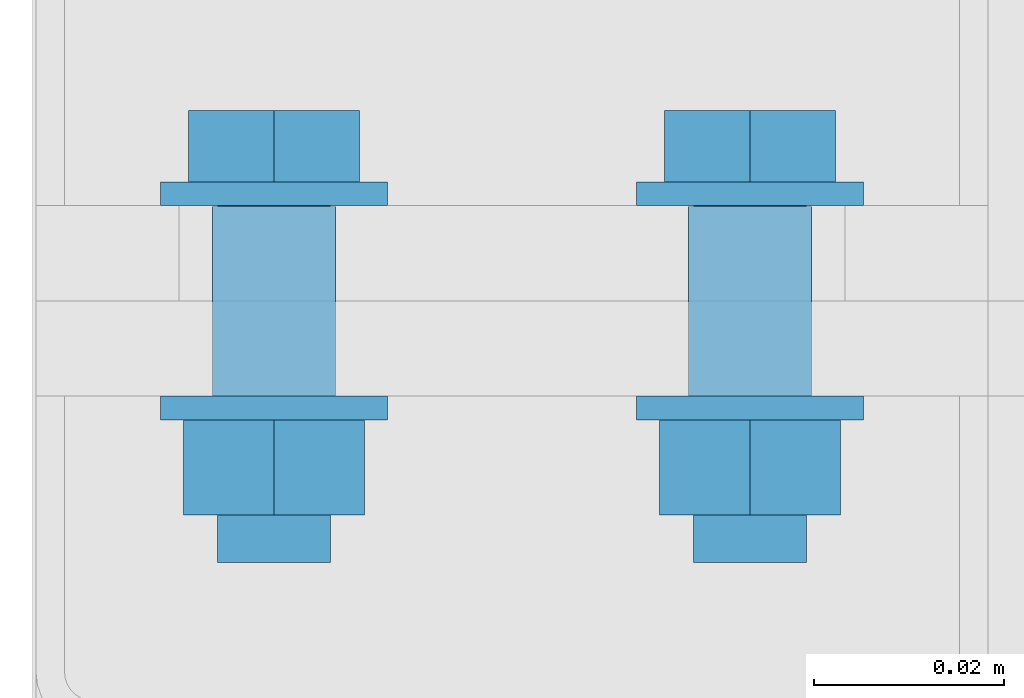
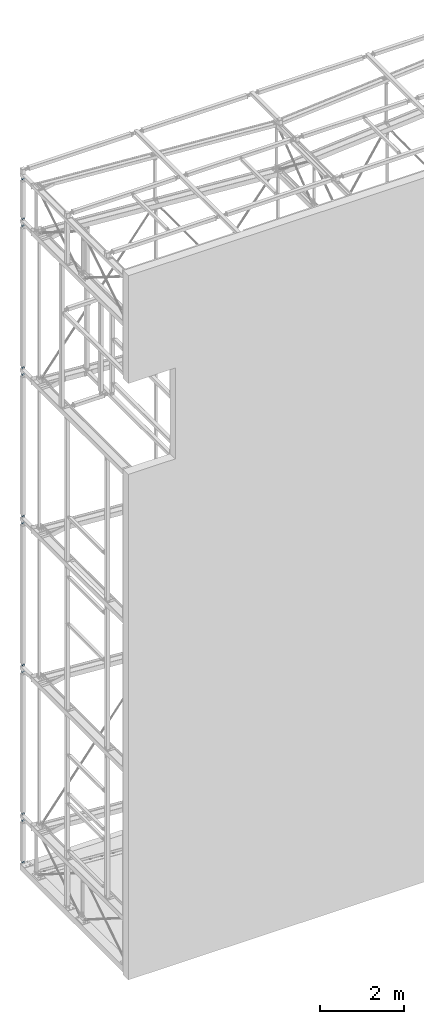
# One storey, part 252 of 271: 12 mechanical fasteners, 6 elements without a shape of their own.
"""IFC2X3 building model written with IfcOpenShell, lengths in millimetres."""

from ifc_helpers import new_model, si_unit, frame, frame_2d, origin_with_axes, origin_2d_with_axis, place, context, subcontext, project, spatial, polyline, circle_curve, parameter, trimmed, segment, composite_curve, circle, outline, extrude, source, transform, mapped, material, type_object, element, aggregate, save


model = new_model("IFC2X3")

# Units and contexts
model_context = context("Model", 3, precision=1e-05, world=origin_with_axes())
body_context = subcontext(model_context, "Body", "Model", "MODEL_VIEW")
ifc_project = project(units=[si_unit("LENGTHUNIT", "METRE", prefix="MILLI"), si_unit("AREAUNIT", "SQUARE_METRE"), si_unit("VOLUMEUNIT", "CUBIC_METRE"), si_unit("MASSUNIT", "GRAM", prefix="KILO"), si_unit("TIMEUNIT", "SECOND"), si_unit("PLANEANGLEUNIT", "RADIAN"), si_unit("SOLIDANGLEUNIT", "STERADIAN"), si_unit("THERMODYNAMICTEMPERATUREUNIT", "DEGREE_CELSIUS"), si_unit("LUMINOUSINTENSITYUNIT", "LUMEN")], contexts=[model_context])

# Site, building, storey
site_placement = place(None, origin_with_axes())
site = spatial("IfcSite", under=ifc_project, at=site_placement, Name="Undefined", CompositionType="ELEMENT")
building_placement = place(site_placement, origin_with_axes())
building = spatial("IfcBuilding", under=site, at=building_placement, Name="Undefined", CompositionType="ELEMENT")
storey_placement = place(building_placement, origin_with_axes())
storey = spatial("IfcBuildingStorey", under=building, at=storey_placement, Name="Undefined", CompositionType="ELEMENT", Elevation=0.0)

# Assembly, mechanical fastener
assembly_1_placement = place(storey_placement, origin_with_axes())
assembly_1 = element("IfcElementAssembly", 1, at=assembly_1_placement, inside=storey, AssemblyPlace="NOTDEFINED", PredefinedType="RIGID_FRAME")
ifc_material = material(Name="Undefined")
mechanical_fastener_type = type_object("IfcMechanicalFastenerType", Name="Bolt assembly")
shared_shape_1 = source(origin_with_axes(), body_context, "Body", "SweptSolid", [
    extrude(circle(Radius=6.5, at=origin_2d_with_axis()), frame((0.0, -5.1, 0.0), z_axis=(0.0, 1.0, 0.0), x_axis=(1.0, 0.0, 0.0)), (0.0, 0.0, 1.0), 10.1),
    extrude(circle(Radius=6.5, at=origin_2d_with_axis()), frame((0.0, -14.9000000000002, 0.0), z_axis=(0.0, 1.0, 0.0), x_axis=(1.0, 0.0, 0.0)), (0.0, 0.0, 1.0), 10.0),
    extrude(outline(polyline([(10.39230484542, 0.0), (5.19615242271, 9.00000000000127), (-5.19615242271, 9.00000000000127), (-10.39230484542, 0.0), (-5.19615242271, -9.00000000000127), (5.19615242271, -9.00000000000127), (10.39230484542, 0.0)])), frame((0.0, -25.0000000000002, 0.0), z_axis=(0.0, 1.0, 0.0), x_axis=(1.0, 0.0, 0.0)), (0.0, 0.0, 1.0), 7.5),
    extrude(circle(Radius=6.0, at=origin_2d_with_axis()), frame((0.0, -17.5000000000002, 0.0), z_axis=(0.0, 1.0, 0.0), x_axis=(1.0, 0.0, 0.0)), (0.0, 0.0, 1.0), 40.0),
    extrude(circle(Radius=12.0, at=origin_2d_with_axis()), frame((0.0, -17.5000000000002, 0.0), z_axis=(0.0, 1.0, 0.0), x_axis=(1.0, 0.0, 0.0)), (0.0, 0.0, 1.0), 2.5),
    extrude(circle(Radius=12.0, at=origin_2d_with_axis()), frame((0.0, 5.00000000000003, 0.0), z_axis=(0.0, 1.0, 0.0), x_axis=(1.0, 0.0, 0.0)), (0.0, 0.0, 1.0), 2.5),
    extrude(outline(polyline([(10.96965511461, 0.0), (5.484827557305, 9.50000000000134), (-5.484827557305, 9.50000000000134), (-10.96965511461, 0.0), (-5.484827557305, -9.50000000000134), (5.484827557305, -9.50000000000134), (10.96965511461, 0.0)])), frame((0.0, 7.50000000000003, 0.0), z_axis=(0.0, 1.0, 0.0), x_axis=(1.0, 0.0, 0.0)), (0.0, 0.0, 1.0), 10.0),
])
mechanical_fastener_1_placement = place(assembly_1_placement, frame((38.3756870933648, 4899.32498425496, 45.3499999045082), z_axis=(1.0, 0.0, 0.0), x_axis=(0.0, 0.0, 1.0)))
mechanical_fastener_1 = element("IfcMechanicalFastener", 2, at=mechanical_fastener_1_placement, type_object=mechanical_fastener_type, material=ifc_material, Name="Bolt assembly", NominalDiameter=12.0, NominalLength=40.0, context=body_context, shape_type="MappedRepresentation", body=[
    mapped(shared_shape_1, transform((0.0, 0.0, -25.0))),
    mapped(shared_shape_1, transform((0.0, 0.0, 25.0))),
])

assembly_2_placement = place(storey_placement, origin_with_axes())
assembly_2 = element("IfcElementAssembly", 3, at=assembly_2_placement, inside=storey, AssemblyPlace="NOTDEFINED", PredefinedType="RIGID_FRAME")
mechanical_fastener_2_placement = place(assembly_2_placement, frame((38.3756870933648, 4899.32498425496, 1459.34999990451), z_axis=(1.0, 0.0, 0.0), x_axis=(0.0, 0.0, 1.0)))
mechanical_fastener_2 = element("IfcMechanicalFastener", 4, at=mechanical_fastener_2_placement, type_object=mechanical_fastener_type, material=ifc_material, Name="Bolt assembly", NominalDiameter=12.0, NominalLength=40.0, context=body_context, shape_type="MappedRepresentation", body=[
    mapped(shared_shape_1, transform((0.0, 0.0, -25.0))),
    mapped(shared_shape_1, transform((0.0, 0.0, 25.0))),
])

assembly_3_placement = place(storey_placement, origin_with_axes())
assembly_3 = element("IfcElementAssembly", 5, at=assembly_3_placement, inside=storey, AssemblyPlace="NOTDEFINED", PredefinedType="RIGID_FRAME")
mechanical_fastener_3_placement = place(assembly_3_placement, frame((38.3756870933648, 4899.32498425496, 5779.34999990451), z_axis=(1.0, 0.0, 0.0), x_axis=(0.0, 0.0, 1.0)))
mechanical_fastener_3 = element("IfcMechanicalFastener", 6, at=mechanical_fastener_3_placement, type_object=mechanical_fastener_type, material=ifc_material, Name="Bolt assembly", NominalDiameter=12.0, NominalLength=40.0, context=body_context, shape_type="MappedRepresentation", body=[
    mapped(shared_shape_1, transform((0.0, 0.0, -25.0))),
    mapped(shared_shape_1, transform((0.0, 0.0, 25.0))),
])

assembly_4_placement = place(storey_placement, origin_with_axes())
assembly_4 = element("IfcElementAssembly", 7, at=assembly_4_placement, inside=storey, AssemblyPlace="NOTDEFINED", PredefinedType="RIGID_FRAME")
mechanical_fastener_4_placement = place(assembly_4_placement, frame((38.3756870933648, 4899.32498425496, 10099.3499999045), z_axis=(1.0, 0.0, 0.0), x_axis=(0.0, 0.0, 1.0)))
mechanical_fastener_4 = element("IfcMechanicalFastener", 8, at=mechanical_fastener_4_placement, type_object=mechanical_fastener_type, material=ifc_material, Name="Bolt assembly", NominalDiameter=12.0, NominalLength=40.0, context=body_context, shape_type="MappedRepresentation", body=[
    mapped(shared_shape_1, transform((0.0, 0.0, -25.0))),
    mapped(shared_shape_1, transform((0.0, 0.0, 25.0))),
])

assembly_5_placement = place(storey_placement, origin_with_axes())
assembly_5 = element("IfcElementAssembly", 9, at=assembly_5_placement, inside=storey, AssemblyPlace="NOTDEFINED", PredefinedType="RIGID_FRAME")
mechanical_fastener_5_placement = place(assembly_5_placement, frame((38.3756870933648, 4899.32498425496, 14419.3499999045), z_axis=(1.0, 0.0, 0.0), x_axis=(0.0, 0.0, 1.0)))
mechanical_fastener_5 = element("IfcMechanicalFastener", 10, at=mechanical_fastener_5_placement, type_object=mechanical_fastener_type, material=ifc_material, Name="Bolt assembly", NominalDiameter=12.0, NominalLength=40.0, context=body_context, shape_type="MappedRepresentation", body=[
    mapped(shared_shape_1, transform((0.0, 0.0, -25.0))),
    mapped(shared_shape_1, transform((0.0, 0.0, 25.0))),
])

assembly_6_placement = place(storey_placement, origin_with_axes())
assembly_6 = element("IfcElementAssembly", 11, at=assembly_6_placement, inside=storey, AssemblyPlace="NOTDEFINED", PredefinedType="RIGID_FRAME")
mechanical_fastener_6_placement = place(assembly_6_placement, frame((38.3756870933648, 4899.32498425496, 18739.3499999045), z_axis=(1.0, 0.0, 0.0), x_axis=(0.0, 0.0, 1.0)))
mechanical_fastener_6 = element("IfcMechanicalFastener", 12, at=mechanical_fastener_6_placement, type_object=mechanical_fastener_type, material=ifc_material, Name="Bolt assembly", NominalDiameter=12.0, NominalLength=40.0, context=body_context, shape_type="MappedRepresentation", body=[
    mapped(shared_shape_1, transform((0.0, 0.0, -25.0))),
    mapped(shared_shape_1, transform((0.0, 0.0, 25.0))),
])

# Mechanical fastener
shared_shape_2 = source(origin_with_axes(), body_context, "Body", "SweptSolid", [
    extrude(circle(Radius=6.5, at=origin_2d_with_axis()), frame((0.0, -5.1, 0.0), z_axis=(0.0, 1.0, 0.0), x_axis=(1.0, 0.0, 0.0)), (0.0, 0.0, 1.0), 10.1),
    extrude(outline(composite_curve([segment(polyline([(-13.5, 6.5), (13.5, 6.5)]), True, "CONTINUOUS"), segment(trimmed(circle_curve(frame_2d((13.5, 0.0), x_axis=(0.0, 1.0)), 6.5), [parameter(0.0)], [parameter(3.14159265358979)], False, "PARAMETER"), True, "CONTINUOUS"), segment(polyline([(13.5, -6.5), (-13.5, -6.5)]), True, "CONTINUOUS"), segment(trimmed(circle_curve(frame_2d((-13.5, 0.0), x_axis=(0.0, -1.0)), 6.5), [parameter(0.0)], [parameter(3.14159265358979)], False, "PARAMETER"), True, "DISCONTINUOUS")], self_intersect=False)), frame((0.0, -14.9000000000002, 0.0), z_axis=(0.0, 1.0, 0.0), x_axis=(1.0, 0.0, 0.0)), (0.0, 0.0, 1.0), 10.0),
    extrude(outline(polyline([(10.39230484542, 0.0), (5.19615242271, 9.00000000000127), (-5.19615242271, 9.00000000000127), (-10.39230484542, 0.0), (-5.19615242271, -9.00000000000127), (5.19615242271, -9.00000000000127), (10.39230484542, 0.0)])), frame((0.0, -25.0000000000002, 0.0), z_axis=(0.0, 1.0, 0.0), x_axis=(1.0, 0.0, 0.0)), (0.0, 0.0, 1.0), 7.5),
    extrude(circle(Radius=6.0, at=origin_2d_with_axis()), frame((0.0, -17.5000000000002, 0.0), z_axis=(0.0, 1.0, 0.0), x_axis=(1.0, 0.0, 0.0)), (0.0, 0.0, 1.0), 40.0),
    extrude(circle(Radius=12.0, at=origin_2d_with_axis()), frame((0.0, -17.5000000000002, 0.0), z_axis=(0.0, 1.0, 0.0), x_axis=(1.0, 0.0, 0.0)), (0.0, 0.0, 1.0), 2.5),
    extrude(circle(Radius=12.0, at=origin_2d_with_axis()), frame((0.0, 5.00000000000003, 0.0), z_axis=(0.0, 1.0, 0.0), x_axis=(1.0, 0.0, 0.0)), (0.0, 0.0, 1.0), 2.5),
    extrude(outline(polyline([(10.96965511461, 0.0), (5.484827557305, 9.50000000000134), (-5.484827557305, 9.50000000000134), (-10.96965511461, 0.0), (-5.484827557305, -9.50000000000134), (5.484827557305, -9.50000000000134), (10.96965511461, 0.0)])), frame((0.0, 7.50000000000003, 0.0), z_axis=(0.0, 1.0, 0.0), x_axis=(1.0, 0.0, 0.0)), (0.0, 0.0, 1.0), 10.0),
])
mechanical_fastener_7_placement = place(assembly_1_placement, frame((38.3756870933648, 4899.32498425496, 1259.34999990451), z_axis=(-1.0, 0.0, 1.38777878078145e-17), x_axis=(0.0, 0.0, -1.0)))
mechanical_fastener_7 = element("IfcMechanicalFastener", 13, at=mechanical_fastener_7_placement, type_object=mechanical_fastener_type, material=ifc_material, Name="Bolt assembly", NominalDiameter=12.0, NominalLength=40.0, context=body_context, shape_type="MappedRepresentation", body=[
    mapped(shared_shape_2, transform((0.0, 0.0, -25.0))),
    mapped(shared_shape_2, transform((0.0, 0.0, 25.0))),
])

aggregate(assembly_1, [mechanical_fastener_1, mechanical_fastener_7])

shared_shape_3 = source(origin_with_axes(), body_context, "Body", "SweptSolid", [
    extrude(circle(Radius=6.5, at=origin_2d_with_axis()), frame((0.0, -5.1, 0.0), z_axis=(0.0, 1.0, 0.0), x_axis=(1.0, 0.0, 0.0)), (0.0, 0.0, 1.0), 10.1),
    extrude(outline(composite_curve([segment(polyline([(-13.5, 6.5), (13.5, 6.5)]), True, "CONTINUOUS"), segment(trimmed(circle_curve(frame_2d((13.5, 0.0), x_axis=(0.0, 1.0)), 6.5), [parameter(0.0)], [parameter(3.14159265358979)], False, "PARAMETER"), True, "CONTINUOUS"), segment(polyline([(13.5, -6.5), (-13.5, -6.5)]), True, "CONTINUOUS"), segment(trimmed(circle_curve(frame_2d((-13.5, 0.0), x_axis=(0.0, -1.0)), 6.5), [parameter(0.0)], [parameter(3.14159265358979)], False, "PARAMETER"), True, "DISCONTINUOUS")], self_intersect=False)), frame((0.0, -14.9000000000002, 0.0), z_axis=(0.0, 1.0, 0.0), x_axis=(1.0, 0.0, 0.0)), (0.0, 0.0, 1.0), 10.0),
    extrude(outline(polyline([(10.39230484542, 0.0), (5.19615242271, 9.00000000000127), (-5.19615242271, 9.00000000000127), (-10.39230484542, 0.0), (-5.19615242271, -9.00000000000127), (5.19615242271, -9.00000000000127), (10.39230484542, 0.0)])), frame((0.0, -25.0000000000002, 0.0), z_axis=(0.0, 1.0, 0.0), x_axis=(1.0, 0.0, 0.0)), (0.0, 0.0, 1.0), 7.5),
    extrude(circle(Radius=6.0, at=origin_2d_with_axis()), frame((0.0, -17.5000000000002, 0.0), z_axis=(0.0, 1.0, 0.0), x_axis=(1.0, 0.0, 0.0)), (0.0, 0.0, 1.0), 40.0),
    extrude(circle(Radius=12.0, at=origin_2d_with_axis()), frame((0.0, -17.5000000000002, 0.0), z_axis=(0.0, 1.0, 0.0), x_axis=(1.0, 0.0, 0.0)), (0.0, 0.0, 1.0), 2.5),
    extrude(circle(Radius=12.0, at=origin_2d_with_axis()), frame((0.0, 5.00000000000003, 0.0), z_axis=(0.0, 1.0, 0.0), x_axis=(1.0, 0.0, 0.0)), (0.0, 0.0, 1.0), 2.5),
    extrude(outline(polyline([(10.96965511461, 0.0), (5.484827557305, 9.50000000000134), (-5.484827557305, 9.50000000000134), (-10.96965511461, 0.0), (-5.484827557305, -9.50000000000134), (5.484827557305, -9.50000000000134), (10.96965511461, 0.0)])), frame((0.0, 7.50000000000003, 0.0), z_axis=(0.0, 1.0, 0.0), x_axis=(1.0, 0.0, 0.0)), (0.0, 0.0, 1.0), 10.0),
])
mechanical_fastener_8_placement = place(assembly_2_placement, frame((38.3756870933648, 4899.32498425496, 5579.34999990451), z_axis=(-1.0, 0.0, 1.38777878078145e-17), x_axis=(0.0, 0.0, -1.0)))
mechanical_fastener_8 = element("IfcMechanicalFastener", 14, at=mechanical_fastener_8_placement, type_object=mechanical_fastener_type, material=ifc_material, Name="Bolt assembly", NominalDiameter=12.0, NominalLength=40.0, context=body_context, shape_type="MappedRepresentation", body=[
    mapped(shared_shape_3, transform((0.0, 0.0, -25.0))),
    mapped(shared_shape_3, transform((0.0, 0.0, 25.0))),
])

aggregate(assembly_2, [mechanical_fastener_2, mechanical_fastener_8])

shared_shape_4 = source(origin_with_axes(), body_context, "Body", "SweptSolid", [
    extrude(circle(Radius=6.5, at=origin_2d_with_axis()), frame((0.0, -5.1, 0.0), z_axis=(0.0, 1.0, 0.0), x_axis=(1.0, 0.0, 0.0)), (0.0, 0.0, 1.0), 10.1),
    extrude(outline(composite_curve([segment(polyline([(-13.5, 6.5), (13.5, 6.5)]), True, "CONTINUOUS"), segment(trimmed(circle_curve(frame_2d((13.5, 0.0), x_axis=(0.0, 1.0)), 6.5), [parameter(0.0)], [parameter(3.14159265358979)], False, "PARAMETER"), True, "CONTINUOUS"), segment(polyline([(13.5, -6.5), (-13.5, -6.5)]), True, "CONTINUOUS"), segment(trimmed(circle_curve(frame_2d((-13.5, 0.0), x_axis=(0.0, -1.0)), 6.5), [parameter(0.0)], [parameter(3.14159265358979)], False, "PARAMETER"), True, "DISCONTINUOUS")], self_intersect=False)), frame((0.0, -14.9000000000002, 0.0), z_axis=(0.0, 1.0, 0.0), x_axis=(1.0, 0.0, 0.0)), (0.0, 0.0, 1.0), 10.0),
    extrude(outline(polyline([(10.39230484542, 0.0), (5.19615242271, 9.00000000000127), (-5.19615242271, 9.00000000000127), (-10.39230484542, 0.0), (-5.19615242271, -9.00000000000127), (5.19615242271, -9.00000000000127), (10.39230484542, 0.0)])), frame((0.0, -25.0000000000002, 0.0), z_axis=(0.0, 1.0, 0.0), x_axis=(1.0, 0.0, 0.0)), (0.0, 0.0, 1.0), 7.5),
    extrude(circle(Radius=6.0, at=origin_2d_with_axis()), frame((0.0, -17.5000000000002, 0.0), z_axis=(0.0, 1.0, 0.0), x_axis=(1.0, 0.0, 0.0)), (0.0, 0.0, 1.0), 40.0),
    extrude(circle(Radius=12.0, at=origin_2d_with_axis()), frame((0.0, -17.5000000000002, 0.0), z_axis=(0.0, 1.0, 0.0), x_axis=(1.0, 0.0, 0.0)), (0.0, 0.0, 1.0), 2.5),
    extrude(circle(Radius=12.0, at=origin_2d_with_axis()), frame((0.0, 5.00000000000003, 0.0), z_axis=(0.0, 1.0, 0.0), x_axis=(1.0, 0.0, 0.0)), (0.0, 0.0, 1.0), 2.5),
    extrude(outline(polyline([(10.96965511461, 0.0), (5.484827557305, 9.50000000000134), (-5.484827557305, 9.50000000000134), (-10.96965511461, 0.0), (-5.484827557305, -9.50000000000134), (5.484827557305, -9.50000000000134), (10.96965511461, 0.0)])), frame((0.0, 7.50000000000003, 0.0), z_axis=(0.0, 1.0, 0.0), x_axis=(1.0, 0.0, 0.0)), (0.0, 0.0, 1.0), 10.0),
])
mechanical_fastener_9_placement = place(assembly_3_placement, frame((38.3756870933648, 4899.32498425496, 9899.34999990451), z_axis=(-1.0, 0.0, 1.38777878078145e-17), x_axis=(0.0, 0.0, -1.0)))
mechanical_fastener_9 = element("IfcMechanicalFastener", 15, at=mechanical_fastener_9_placement, type_object=mechanical_fastener_type, material=ifc_material, Name="Bolt assembly", NominalDiameter=12.0, NominalLength=40.0, context=body_context, shape_type="MappedRepresentation", body=[
    mapped(shared_shape_4, transform((0.0, 0.0, -25.0))),
    mapped(shared_shape_4, transform((0.0, 0.0, 25.0))),
])

aggregate(assembly_3, [mechanical_fastener_3, mechanical_fastener_9])

shared_shape_5 = source(origin_with_axes(), body_context, "Body", "SweptSolid", [
    extrude(circle(Radius=6.5, at=origin_2d_with_axis()), frame((0.0, -5.1, 0.0), z_axis=(0.0, 1.0, 0.0), x_axis=(1.0, 0.0, 0.0)), (0.0, 0.0, 1.0), 10.1),
    extrude(outline(composite_curve([segment(polyline([(-13.5, 6.5), (13.5, 6.5)]), True, "CONTINUOUS"), segment(trimmed(circle_curve(frame_2d((13.5, 0.0), x_axis=(0.0, 1.0)), 6.5), [parameter(0.0)], [parameter(3.14159265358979)], False, "PARAMETER"), True, "CONTINUOUS"), segment(polyline([(13.5, -6.5), (-13.5, -6.5)]), True, "CONTINUOUS"), segment(trimmed(circle_curve(frame_2d((-13.5, 0.0), x_axis=(0.0, -1.0)), 6.5), [parameter(0.0)], [parameter(3.14159265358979)], False, "PARAMETER"), True, "DISCONTINUOUS")], self_intersect=False)), frame((0.0, -14.9000000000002, 0.0), z_axis=(0.0, 1.0, 0.0), x_axis=(1.0, 0.0, 0.0)), (0.0, 0.0, 1.0), 10.0),
    extrude(outline(polyline([(10.39230484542, 0.0), (5.19615242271, 9.00000000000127), (-5.19615242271, 9.00000000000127), (-10.39230484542, 0.0), (-5.19615242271, -9.00000000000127), (5.19615242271, -9.00000000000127), (10.39230484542, 0.0)])), frame((0.0, -25.0000000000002, 0.0), z_axis=(0.0, 1.0, 0.0), x_axis=(1.0, 0.0, 0.0)), (0.0, 0.0, 1.0), 7.5),
    extrude(circle(Radius=6.0, at=origin_2d_with_axis()), frame((0.0, -17.5000000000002, 0.0), z_axis=(0.0, 1.0, 0.0), x_axis=(1.0, 0.0, 0.0)), (0.0, 0.0, 1.0), 40.0),
    extrude(circle(Radius=12.0, at=origin_2d_with_axis()), frame((0.0, -17.5000000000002, 0.0), z_axis=(0.0, 1.0, 0.0), x_axis=(1.0, 0.0, 0.0)), (0.0, 0.0, 1.0), 2.5),
    extrude(circle(Radius=12.0, at=origin_2d_with_axis()), frame((0.0, 5.00000000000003, 0.0), z_axis=(0.0, 1.0, 0.0), x_axis=(1.0, 0.0, 0.0)), (0.0, 0.0, 1.0), 2.5),
    extrude(outline(polyline([(10.96965511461, 0.0), (5.484827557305, 9.50000000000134), (-5.484827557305, 9.50000000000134), (-10.96965511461, 0.0), (-5.484827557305, -9.50000000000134), (5.484827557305, -9.50000000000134), (10.96965511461, 0.0)])), frame((0.0, 7.50000000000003, 0.0), z_axis=(0.0, 1.0, 0.0), x_axis=(1.0, 0.0, 0.0)), (0.0, 0.0, 1.0), 10.0),
])
mechanical_fastener_10_placement = place(assembly_4_placement, frame((38.3756870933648, 4899.32498425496, 14219.3499999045), z_axis=(-1.0, 0.0, 1.38777878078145e-17), x_axis=(0.0, 0.0, -1.0)))
mechanical_fastener_10 = element("IfcMechanicalFastener", 16, at=mechanical_fastener_10_placement, type_object=mechanical_fastener_type, material=ifc_material, Name="Bolt assembly", NominalDiameter=12.0, NominalLength=40.0, context=body_context, shape_type="MappedRepresentation", body=[
    mapped(shared_shape_5, transform((0.0, 0.0, -25.0))),
    mapped(shared_shape_5, transform((0.0, 0.0, 25.0))),
])

aggregate(assembly_4, [mechanical_fastener_4, mechanical_fastener_10])

shared_shape_6 = source(origin_with_axes(), body_context, "Body", "SweptSolid", [
    extrude(circle(Radius=6.5, at=origin_2d_with_axis()), frame((0.0, -5.1, 0.0), z_axis=(0.0, 1.0, 0.0), x_axis=(1.0, 0.0, 0.0)), (0.0, 0.0, 1.0), 10.1),
    extrude(outline(composite_curve([segment(polyline([(-13.5, 6.5), (13.5, 6.5)]), True, "CONTINUOUS"), segment(trimmed(circle_curve(frame_2d((13.5, 0.0), x_axis=(0.0, 1.0)), 6.5), [parameter(0.0)], [parameter(3.14159265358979)], False, "PARAMETER"), True, "CONTINUOUS"), segment(polyline([(13.5, -6.5), (-13.5, -6.5)]), True, "CONTINUOUS"), segment(trimmed(circle_curve(frame_2d((-13.5, 0.0), x_axis=(0.0, -1.0)), 6.5), [parameter(0.0)], [parameter(3.14159265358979)], False, "PARAMETER"), True, "DISCONTINUOUS")], self_intersect=False)), frame((0.0, -14.9000000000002, 0.0), z_axis=(0.0, 1.0, 0.0), x_axis=(1.0, 0.0, 0.0)), (0.0, 0.0, 1.0), 10.0),
    extrude(outline(polyline([(10.39230484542, 0.0), (5.19615242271, 9.00000000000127), (-5.19615242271, 9.00000000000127), (-10.39230484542, 0.0), (-5.19615242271, -9.00000000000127), (5.19615242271, -9.00000000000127), (10.39230484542, 0.0)])), frame((0.0, -25.0000000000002, 0.0), z_axis=(0.0, 1.0, 0.0), x_axis=(1.0, 0.0, 0.0)), (0.0, 0.0, 1.0), 7.5),
    extrude(circle(Radius=6.0, at=origin_2d_with_axis()), frame((0.0, -17.5000000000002, 0.0), z_axis=(0.0, 1.0, 0.0), x_axis=(1.0, 0.0, 0.0)), (0.0, 0.0, 1.0), 40.0),
    extrude(circle(Radius=12.0, at=origin_2d_with_axis()), frame((0.0, -17.5000000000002, 0.0), z_axis=(0.0, 1.0, 0.0), x_axis=(1.0, 0.0, 0.0)), (0.0, 0.0, 1.0), 2.5),
    extrude(circle(Radius=12.0, at=origin_2d_with_axis()), frame((0.0, 5.00000000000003, 0.0), z_axis=(0.0, 1.0, 0.0), x_axis=(1.0, 0.0, 0.0)), (0.0, 0.0, 1.0), 2.5),
    extrude(outline(polyline([(10.96965511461, 0.0), (5.484827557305, 9.50000000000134), (-5.484827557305, 9.50000000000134), (-10.96965511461, 0.0), (-5.484827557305, -9.50000000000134), (5.484827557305, -9.50000000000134), (10.96965511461, 0.0)])), frame((0.0, 7.50000000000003, 0.0), z_axis=(0.0, 1.0, 0.0), x_axis=(1.0, 0.0, 0.0)), (0.0, 0.0, 1.0), 10.0),
])
mechanical_fastener_11_placement = place(assembly_5_placement, frame((38.3756870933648, 4899.32498425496, 18539.3499999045), z_axis=(-1.0, 0.0, 1.38777878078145e-17), x_axis=(0.0, 0.0, -1.0)))
mechanical_fastener_11 = element("IfcMechanicalFastener", 17, at=mechanical_fastener_11_placement, type_object=mechanical_fastener_type, material=ifc_material, Name="Bolt assembly", NominalDiameter=12.0, NominalLength=40.0, context=body_context, shape_type="MappedRepresentation", body=[
    mapped(shared_shape_6, transform((0.0, 0.0, -25.0))),
    mapped(shared_shape_6, transform((0.0, 0.0, 25.0))),
])

aggregate(assembly_5, [mechanical_fastener_5, mechanical_fastener_11])

shared_shape_7 = source(origin_with_axes(), body_context, "Body", "SweptSolid", [
    extrude(circle(Radius=6.5, at=origin_2d_with_axis()), frame((0.0, -5.1, 0.0), z_axis=(0.0, 1.0, 0.0), x_axis=(1.0, 0.0, 0.0)), (0.0, 0.0, 1.0), 10.1),
    extrude(outline(composite_curve([segment(polyline([(-13.5, 6.5), (13.5, 6.5)]), True, "CONTINUOUS"), segment(trimmed(circle_curve(frame_2d((13.5, 0.0), x_axis=(0.0, 1.0)), 6.5), [parameter(0.0)], [parameter(3.14159265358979)], False, "PARAMETER"), True, "CONTINUOUS"), segment(polyline([(13.5, -6.5), (-13.5, -6.5)]), True, "CONTINUOUS"), segment(trimmed(circle_curve(frame_2d((-13.5, 0.0), x_axis=(0.0, -1.0)), 6.5), [parameter(0.0)], [parameter(3.14159265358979)], False, "PARAMETER"), True, "DISCONTINUOUS")], self_intersect=False)), frame((0.0, -14.9000000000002, 0.0), z_axis=(0.0, 1.0, 0.0), x_axis=(1.0, 0.0, 0.0)), (0.0, 0.0, 1.0), 10.0),
    extrude(outline(polyline([(10.39230484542, 0.0), (5.19615242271, 9.00000000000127), (-5.19615242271, 9.00000000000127), (-10.39230484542, 0.0), (-5.19615242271, -9.00000000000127), (5.19615242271, -9.00000000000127), (10.39230484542, 0.0)])), frame((0.0, -25.0000000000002, 0.0), z_axis=(0.0, 1.0, 0.0), x_axis=(1.0, 0.0, 0.0)), (0.0, 0.0, 1.0), 7.5),
    extrude(circle(Radius=6.0, at=origin_2d_with_axis()), frame((0.0, -17.5000000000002, 0.0), z_axis=(0.0, 1.0, 0.0), x_axis=(1.0, 0.0, 0.0)), (0.0, 0.0, 1.0), 40.0),
    extrude(circle(Radius=12.0, at=origin_2d_with_axis()), frame((0.0, -17.5000000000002, 0.0), z_axis=(0.0, 1.0, 0.0), x_axis=(1.0, 0.0, 0.0)), (0.0, 0.0, 1.0), 2.5),
    extrude(circle(Radius=12.0, at=origin_2d_with_axis()), frame((0.0, 5.00000000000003, 0.0), z_axis=(0.0, 1.0, 0.0), x_axis=(1.0, 0.0, 0.0)), (0.0, 0.0, 1.0), 2.5),
    extrude(outline(polyline([(10.96965511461, 0.0), (5.484827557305, 9.50000000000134), (-5.484827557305, 9.50000000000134), (-10.96965511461, 0.0), (-5.484827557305, -9.50000000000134), (5.484827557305, -9.50000000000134), (10.96965511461, 0.0)])), frame((0.0, 7.50000000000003, 0.0), z_axis=(0.0, 1.0, 0.0), x_axis=(1.0, 0.0, 0.0)), (0.0, 0.0, 1.0), 10.0),
])
mechanical_fastener_12_placement = place(assembly_6_placement, frame((38.3756870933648, 4899.32498425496, 19899.3499999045), z_axis=(-1.0, 0.0, 1.38777878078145e-17), x_axis=(0.0, 0.0, -1.0)))
mechanical_fastener_12 = element("IfcMechanicalFastener", 18, at=mechanical_fastener_12_placement, type_object=mechanical_fastener_type, material=ifc_material, Name="Bolt assembly", NominalDiameter=12.0, NominalLength=40.0, context=body_context, shape_type="MappedRepresentation", body=[
    mapped(shared_shape_7, transform((0.0, 0.0, -25.0))),
    mapped(shared_shape_7, transform((0.0, 0.0, 25.0))),
])

aggregate(assembly_6, [mechanical_fastener_6, mechanical_fastener_12])

save(model, "model.ifc")
